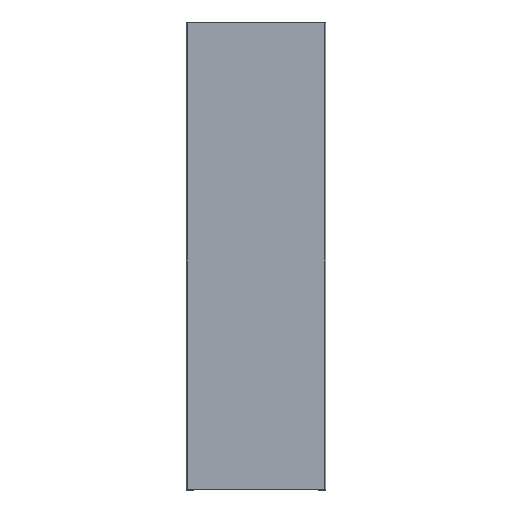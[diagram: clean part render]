
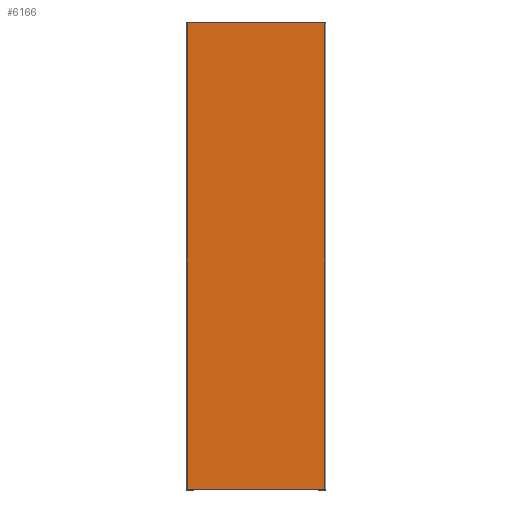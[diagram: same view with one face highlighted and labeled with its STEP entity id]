
A CAD part, top view. The second image highlights one B-rep face of the part: STEP entity #6166.
In plain terms, the highlighted planar face has unit normal (0, 0, 1).
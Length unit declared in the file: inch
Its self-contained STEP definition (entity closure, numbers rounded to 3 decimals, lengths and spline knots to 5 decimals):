
#29=DIRECTION('',(1.,0.,0.));
#30=VECTOR('',#29,23.276);
#31=CARTESIAN_POINT('',(-11.638,39.388,0.));
#32=LINE('',#31,#30);
#2226=DIRECTION('',(0.,1.,0.));
#2227=VECTOR('',#2226,78.776);
#2228=CARTESIAN_POINT('',(-11.638,-39.388,0.));
#2229=LINE('',#2228,#2227);
#2507=DIRECTION('',(-1.,0.,0.));
#2508=VECTOR('',#2507,23.276);
#2509=CARTESIAN_POINT('',(11.638,-39.388,0.));
#2510=LINE('',#2509,#2508);
#4508=DIRECTION('',(0.,-1.,0.));
#4509=VECTOR('',#4508,78.776);
#4510=CARTESIAN_POINT('',(11.638,39.388,0.));
#4511=LINE('',#4510,#4509);
#5283=CARTESIAN_POINT('',(-11.638,-39.388,0.));
#5284=CARTESIAN_POINT('',(-11.638,39.388,0.));
#5285=VERTEX_POINT('',#5283);
#5286=VERTEX_POINT('',#5284);
#5291=CARTESIAN_POINT('',(11.638,39.388,0.));
#5292=CARTESIAN_POINT('',(11.638,-39.388,0.));
#5293=VERTEX_POINT('',#5291);
#5294=VERTEX_POINT('',#5292);
#6151=CARTESIAN_POINT('',(0.,0.,0.));
#6152=DIRECTION('',(0.,0.,1.));
#6153=DIRECTION('',(1.,0.,0.));
#6154=AXIS2_PLACEMENT_3D('',#6151,#6152,#6153);
#6155=PLANE('',#6154);
#6157=ORIENTED_EDGE('',*,*,#6156,.T.);
#6159=ORIENTED_EDGE('',*,*,#6158,.T.);
#6161=ORIENTED_EDGE('',*,*,#6160,.T.);
#6163=ORIENTED_EDGE('',*,*,#6162,.T.);
#6164=EDGE_LOOP('',(#6157,#6159,#6161,#6163));
#6165=FACE_OUTER_BOUND('',#6164,.F.);
#6156=EDGE_CURVE('',#5286,#5293,#32,.T.);
#6158=EDGE_CURVE('',#5293,#5294,#4511,.T.);
#6160=EDGE_CURVE('',#5294,#5285,#2510,.T.);
#6162=EDGE_CURVE('',#5285,#5286,#2229,.T.);
#6166=ADVANCED_FACE('',(#6165),#6155,.T.);
